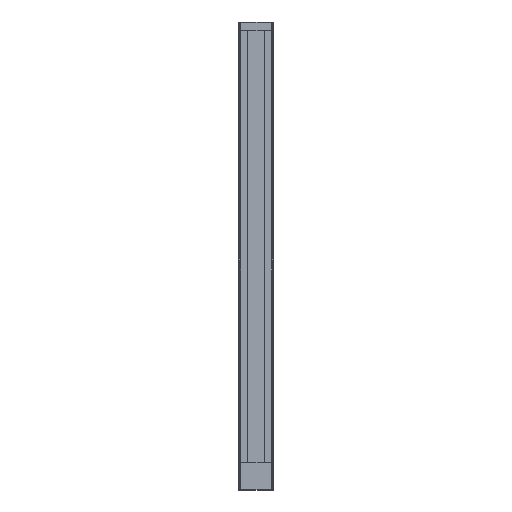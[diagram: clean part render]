
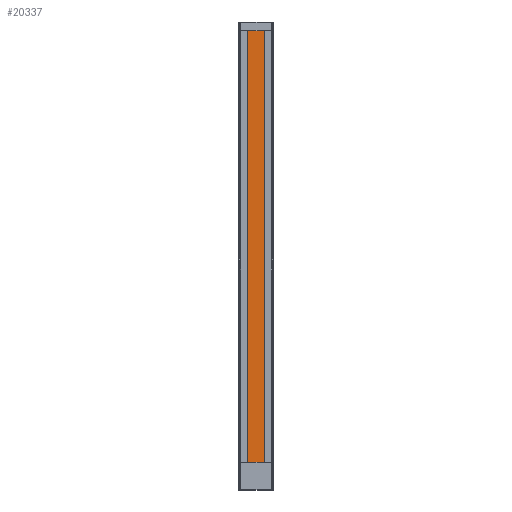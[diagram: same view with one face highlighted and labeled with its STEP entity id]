
A CAD part, top view. The second image highlights one B-rep face of the part: STEP entity #20337.
In plain terms, the highlighted planar face has unit normal (0, 0, 1).
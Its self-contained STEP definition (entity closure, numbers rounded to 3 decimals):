
#332 = ORIENTED_EDGE ( 'NONE', *, *, #13348, .T. ) ;
#596 = EDGE_LOOP ( 'NONE', ( #20383, #18006, #332, #3560 ) ) ;
#888 = CARTESIAN_POINT ( 'NONE',  ( 0., 500., 39. ) ) ;
#2966 = PLANE ( 'NONE',  #8416 ) ;
#3560 = ORIENTED_EDGE ( 'NONE', *, *, #13834, .T. ) ;
#4662 = CARTESIAN_POINT ( 'NONE',  ( -10., 0., 39. ) ) ;
#5585 = VERTEX_POINT ( 'NONE', #4662 ) ;
#6135 = CARTESIAN_POINT ( 'NONE',  ( -10., 500., 39. ) ) ;
#6881 = DIRECTION ( 'NONE',  ( 1., 0., 0. ) ) ;
#6886 = VERTEX_POINT ( 'NONE', #26521 ) ;
#7144 = EDGE_CURVE ( 'NONE', #12284, #6886, #12880, .T. ) ;
#7184 = DIRECTION ( 'NONE',  ( -1., 0., 0. ) ) ;
#7414 = VECTOR ( 'NONE', #17622, 1000. ) ;
#7886 = VECTOR ( 'NONE', #14620, 1000. ) ;
#8416 = AXIS2_PLACEMENT_3D ( 'NONE', #888, #25894, #7184 ) ;
#12284 = VERTEX_POINT ( 'NONE', #20157 ) ;
#12880 = LINE ( 'NONE', #17105, #14090 ) ;
#13011 = DIRECTION ( 'NONE',  ( 0., -1., 0. ) ) ;
#13348 = EDGE_CURVE ( 'NONE', #25487, #5585, #22798, .T. ) ;
#13834 = EDGE_CURVE ( 'NONE', #5585, #6886, #17876, .T. ) ;
#14090 = VECTOR ( 'NONE', #13011, 1000. ) ;
#14620 = DIRECTION ( 'NONE',  ( 0., -1., 0. ) ) ;
#17105 = CARTESIAN_POINT ( 'NONE',  ( 10., 500., 39. ) ) ;
#17264 = CARTESIAN_POINT ( 'NONE',  ( 0., 500., 39. ) ) ;
#17622 = DIRECTION ( 'NONE',  ( 1., 0., 0. ) ) ;
#17876 = LINE ( 'NONE', #24025, #7414 ) ;
#18006 = ORIENTED_EDGE ( 'NONE', *, *, #25533, .F. ) ;
#19615 = FACE_OUTER_BOUND ( 'NONE', #596, .T. ) ;
#20157 = CARTESIAN_POINT ( 'NONE',  ( 10., 500., 39. ) ) ;
#20337 = ADVANCED_FACE ( 'NONE', ( #19615 ), #2966, .F. ) ;
#20383 = ORIENTED_EDGE ( 'NONE', *, *, #7144, .F. ) ;
#20855 = CARTESIAN_POINT ( 'NONE',  ( -10., 500., 39. ) ) ;
#22798 = LINE ( 'NONE', #6135, #7886 ) ;
#23528 = LINE ( 'NONE', #17264, #23902 ) ;
#23902 = VECTOR ( 'NONE', #6881, 1000. ) ;
#24025 = CARTESIAN_POINT ( 'NONE',  ( 0., 0., 39. ) ) ;
#25487 = VERTEX_POINT ( 'NONE', #20855 ) ;
#25533 = EDGE_CURVE ( 'NONE', #25487, #12284, #23528, .T. ) ;
#25894 = DIRECTION ( 'NONE',  ( 0., 0., -1. ) ) ;
#26521 = CARTESIAN_POINT ( 'NONE',  ( 10., 0., 39. ) ) ;
